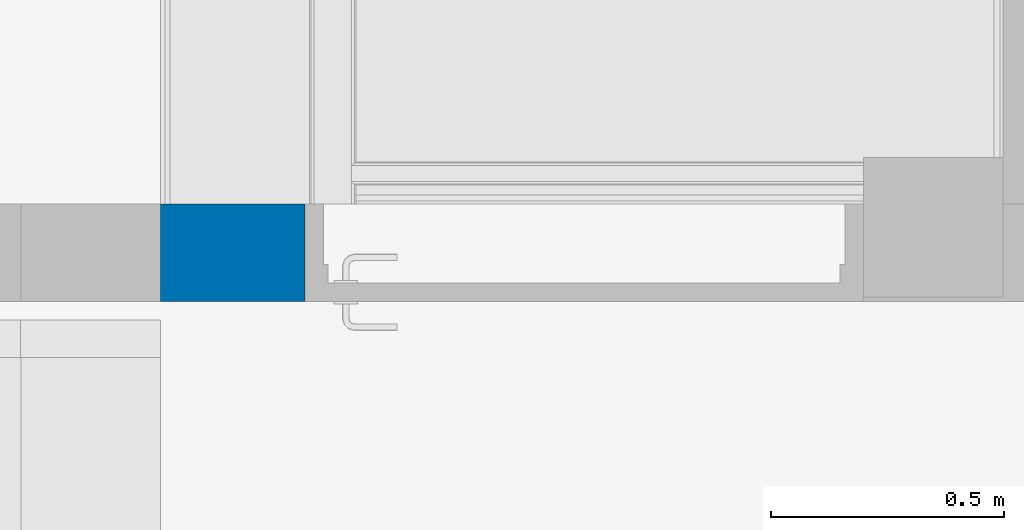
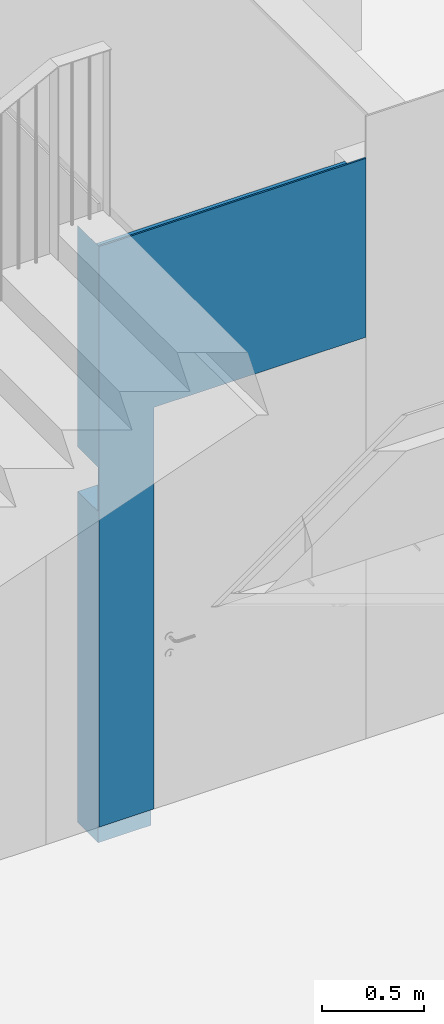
# One storey, part 132 of 246: 1 wall, 1 opening.
"""IFC2X3 building model written with IfcOpenShell, lengths in millimetres."""

from ifc_helpers import new_model, entity, si_unit, converted_unit, derived_unit, money_unit, direction, frame, origin_with_axes, place, context, subcontext, project, spatial, faceted_brep, material, material_list, type_object, element, save


model = new_model("IFC2X3")

# Units and contexts
model_context = context("Model", 3, precision=0.01, world=origin_with_axes(), true_north=direction((0.0, 1.0)))
body_context = subcontext(model_context, "Body", "Model", "MODEL_VIEW")
ifc_project = project(units=[si_unit("LENGTHUNIT", "METRE", prefix="MILLI"), si_unit("AREAUNIT", "SQUARE_METRE"), si_unit("VOLUMEUNIT", "CUBIC_METRE"), converted_unit("PLANEANGLEUNIT", "DEGREE", entity("IfcPlaneAngleMeasure", 0.0174532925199), si_unit("PLANEANGLEUNIT", "RADIAN"), dimensions=[0, 0, 0, 0, 0, 0, 0]), si_unit("SOLIDANGLEUNIT", "STERADIAN"), money_unit("EUR"), converted_unit("TIMEUNIT", "Year", entity("IfcTimeMeasure", 31556926.0), si_unit("TIMEUNIT", "SECOND"), dimensions=[0, 0, 1, 0, 0, 0, 0]), si_unit("MASSUNIT", "GRAM", prefix="KILO"), si_unit("THERMODYNAMICTEMPERATUREUNIT", "DEGREE_CELSIUS"), si_unit("LUMINOUSINTENSITYUNIT", "LUMEN"), si_unit("ENERGYUNIT", "JOULE", prefix="MEGA"), derived_unit("THERMALCONDUCTANCEUNIT", [(si_unit("POWERUNIT", "WATT"), 1), (si_unit("LENGTHUNIT", "METRE"), -1), (si_unit("THERMODYNAMICTEMPERATUREUNIT", "KELVIN"), -1)]), derived_unit("SPECIFICHEATCAPACITYUNIT", [(si_unit("ENERGYUNIT", "JOULE"), 1), (si_unit("MASSUNIT", "GRAM", prefix="KILO"), -1), (si_unit("THERMODYNAMICTEMPERATUREUNIT", "KELVIN"), -1)]), derived_unit("MASSDENSITYUNIT", [(si_unit("MASSUNIT", "GRAM", prefix="KILO"), 1), (si_unit("VOLUMEUNIT", "CUBIC_METRE"), -1)])], contexts=[model_context])

# Site, building, storey
site_placement = place(None, origin_with_axes())
site = spatial("IfcSite", under=ifc_project, at=site_placement, Name="L.Koidula tn 11b", CompositionType="ELEMENT")
building_placement = place(site_placement, origin_with_axes())
building = spatial("IfcBuilding", under=site, at=building_placement, Name="Rakvere Riigigümnaasium", CompositionType="ELEMENT")
storey_placement = place(building_placement, origin_with_axes())
storey = spatial("IfcBuildingStorey", under=building, at=storey_placement, Name="1.korrus 0,00", CompositionType="ELEMENT", Elevation=0.0)

# Wall, opening
ifc_material_1 = material(Name="siseviimistlus-seinad")
ifc_material_2 = material(Name="Betoon element / plaat")
ifc_material_list = material_list([ifc_material_1, ifc_material_2])
wall_type = type_object("IfcWallType", Name="SS-01-1 210", PredefinedType="NOTDEFINED")
wall_placement = place(storey_placement, frame((65599.998037, 17110.4555225, -100.0), z_axis=(0.0, 0.0, 1.0), x_axis=(-1.0, 0.0, 0.0)))
wall = element("IfcWall", 1, at=wall_placement, inside=storey, type_object=wall_type, material=ifc_material_list, Name="Sisesein", context=body_context, shape_type="Brep", body=[
    faceted_brep([(0.0, 10.0, 2500.0), (0.0, 0.0, 2500.0), (0.0, 0.0, 3570.0), (0.0, 10.0, 3570.0), (1200.0, 0.0, 2500.0), (1200.0, 10.0, 2500.0), (1200.0, 1.29283606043e-05, 100.0), (1209.9770401, 1.30358479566e-05, 100.0), (1509.9980378, 1.30358479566e-05, 100.0), (1509.9980378, 0.0, 3570.0), (1509.9980378, 10.0, 3570.0), (1509.9980378, 10.0, 100.0), (1200.0, 10.0, 100.0)], [[[0, 1, 2, 3]], [[4, 1, 0, 5]], [[4, 6, 7, 8, 9, 2, 1]], [[2, 9, 10, 3]], [[5, 0, 3, 10, 11, 12]], [[6, 4, 5, 12]], [[6, 12, 11, 8, 7]], [[8, 11, 10, 9]]]),
    faceted_brep([(0.0, 1.29341160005e-05, 2500.0), (0.0, -70.0, 2500.0), (0.0, -200.0, 2500.0), (0.0, -200.0, 3425.0), (0.0, 1.77197385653e-05, 3425.0), (1200.0, 0.0, 2500.0), (1200.0, -200.0, 2500.0), (1509.97710603, -200.0, 3425.0), (1200.0, -200.0, 2245.0), (1509.9980378, -200.0, 2245.0), (1509.9980378, -200.0, 3570.0), (1509.97710603, -200.0, 3570.0), (1509.97710603, 1.77197385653e-05, 3425.0), (1509.97710603, 1.77197385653e-05, 3570.0), (1509.9980378, 0.0, 3570.0), (1509.9980378, 0.0, 0.0), (1209.9770401, 1.30358479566e-05, 0.0), (1209.9770401, 1.30358479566e-05, 90.0), (1200.0, 1.29321975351e-05, 90.0), (1200.0, 0.0, 100.0), (1200.0, -70.0, 1980.0), (1200.0, -0.499698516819, 1980.0), (1200.0, -0.499698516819, 2245.0), (1200.0, -70.0, 2245.0), (1200.0, -70.0, 100.0), (1200.0, -200.0, 100.0), (1200.0, -200.0, 1980.0), (1509.9980378, -0.499698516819, 2245.0), (1509.9980378, -200.0, 1980.0), (1509.9980378, -200.0, 0.0), (1509.9980378, -0.499698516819, 1980.0), (1209.9770401, -200.0, 0.0), (1209.9770401, -200.0, 90.0), (1200.0, -200.0, 90.0)], [[[0, 1, 2, 3, 4]], [[1, 0, 5, 6, 2]], [[7, 3, 2, 6, 8, 9, 10, 11]], [[7, 12, 4, 3]], [[5, 0, 4, 12, 13, 14, 15, 16, 17, 18, 19]], [[20, 21, 22, 23, 8, 6, 5, 19, 24, 25, 26]], [[23, 22, 27, 9, 8]], [[28, 29, 15, 14, 10, 9, 27, 30]], [[11, 10, 14, 13]], [[11, 13, 12, 7]], [[16, 15, 29, 31]], [[17, 16, 31, 32]], [[18, 17, 32, 33]], [[24, 19, 18, 33, 25]], [[21, 20, 26, 28, 30]], [[22, 21, 30, 27]], [[31, 29, 28, 26, 25, 33, 32]]]),
])
opening_placement = place(wall_placement, frame((600.0, 0.0, 100.0), z_axis=(0.0, 0.0, 1.0), x_axis=(1.0, 0.0, 0.0)))
element("IfcOpeningElement", 2, at=opening_placement, cuts=wall, Name="SU-030", context=body_context, shape_type="Brep", body=[
    faceted_brep([(-600.0, -70.0, 2400.0), (-600.0, -70.0, 0.0), (-600.0, -410.0, 0.0), (-600.0, -410.0, 2400.0), (600.0, -70.0, 2400.0), (600.0, -70.0, 0.0), (600.0, -410.0, 0.0), (600.0, -410.0, 2400.0)], [[[0, 1, 2, 3]], [[0, 4, 5, 1]], [[1, 5, 6, 2]], [[3, 2, 6, 7]], [[4, 0, 3, 7]], [[5, 4, 7, 6]]]),
    faceted_brep([(-600.0, -70.0, 0.0), (-600.0, -70.0, 2400.0), (-600.0, 220.0, 2400.0), (-600.0, 220.0, 0.0), (600.0, -70.0, 0.0), (600.0, -70.0, 2400.0), (600.0, 220.0, 2400.0), (600.0, 220.0, 0.0)], [[[0, 1, 2, 3]], [[0, 4, 5, 1]], [[1, 5, 6, 2]], [[3, 2, 6, 7]], [[4, 0, 3, 7]], [[5, 4, 7, 6]]]),
])

save(model, "model.ifc")
